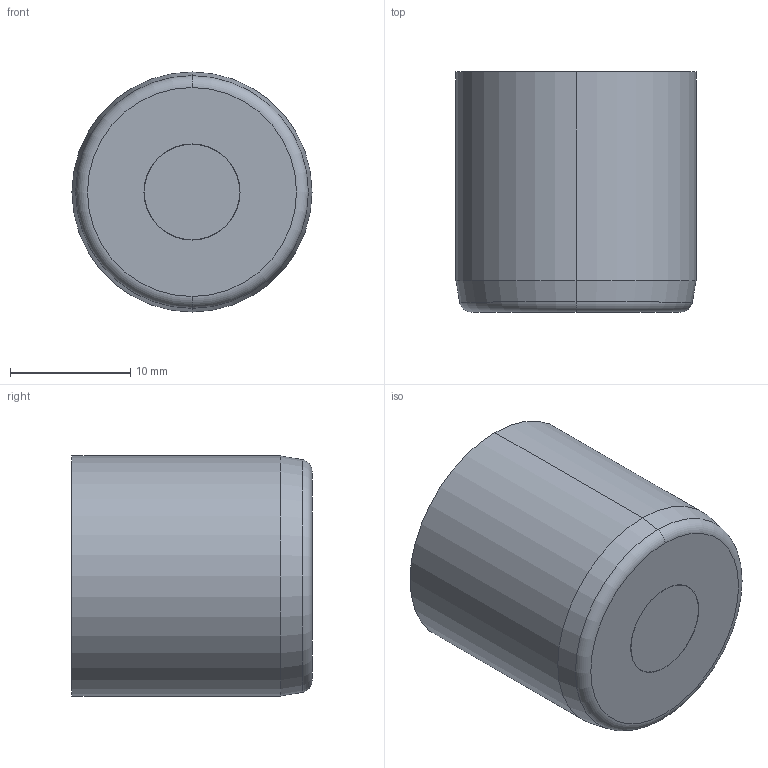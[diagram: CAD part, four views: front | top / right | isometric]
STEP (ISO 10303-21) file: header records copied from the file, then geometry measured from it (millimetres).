
FILE_DESCRIPTION (( 'STEP AP214' ), '1' );
FILE_NAME ('FA 200710-20.STEP', '2013-10-01T10:21:35', ( '' ), ( '' ), 'SwSTEP 2.0', 'SolidWorks 2011', '' );
FILE_SCHEMA (( 'AUTOMOTIVE_DESIGN' ));
Length unit declared in the file: millimetre
Products named in the file (6): FA 168700-3; FA 200710-20-1; FA 200710-20; IA 1007SF; FA 168700-1; FA 168700-2 comprimido
Assembly tree (5 placements, depth 2):
  FA 200710-20
    IA 1007SF
    FA 200710-20-1
    FA 168700-1
    FA 168700-3
    FA 168700-2 comprimido
Bounding box: 20 x 20 x 20 mm (x, y, z)
Volume: 6003.4 mm3; surface area: 3310.2 mm2
Topology: 5 solids, 5 shells, 398 faces, 1033 edges, 675 vertices
Faces by surface type: cylinder 193, plane 159, cone 34, torus 10, bspline 2
Entity records: 13831 total; most frequent: CARTESIAN_POINT 3438, DIRECTION 2247, ORIENTED_EDGE 2062, EDGE_CURVE 1031, AXIS2_PLACEMENT_3D 844, VERTEX_POINT 675, LINE 559, VECTOR 559
